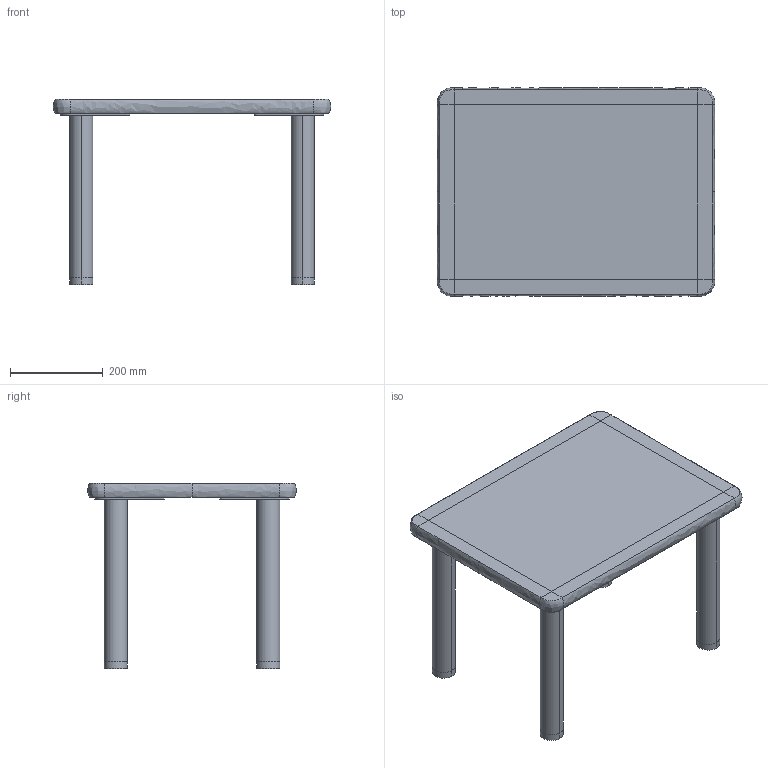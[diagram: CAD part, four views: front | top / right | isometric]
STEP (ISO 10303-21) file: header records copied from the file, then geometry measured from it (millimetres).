
FILE_DESCRIPTION(/* description */ (''),/* implementation_level */ '2;1');
FILE_NAME(/* name */ 'kinoshita_baobabland_kh-600-450',/* time_stamp */ '2025-04-18T20:05:57+09:00',/* author */ (''),/* organization */ (''),/* preprocessor_version */ 'ST-DEVELOPER v16.5',/* originating_system */ '',/* authorisation */ '');
FILE_SCHEMA (('AUTOMOTIVE_DESIGN'));
Length unit declared in the file: millimetre
Products named in the file (1): Document
Bounding box: 599 x 450 x 400 mm (x, y, z)
Volume: 11065613.1 mm3; surface area: 925450.3 mm2
Topology: 5 solids, 5 shells, 132 faces, 338 edges, 212 vertices
Faces by surface type: bspline 106, plane 26
Entity records: 10403 total; most frequent: CARTESIAN_POINT 8390, ORIENTED_EDGE 660, EDGE_CURVE 330, VERTEX_POINT 212, EDGE_LOOP 184, B_SPLINE_CURVE_WITH_KNOTS 162, ADVANCED_FACE 132, FACE_OUTER_BOUND 132
